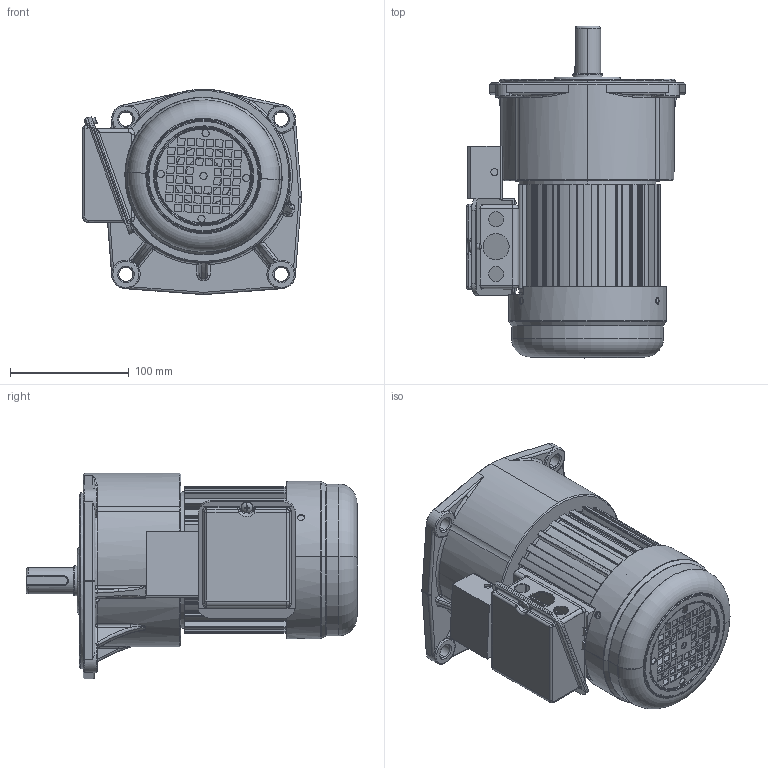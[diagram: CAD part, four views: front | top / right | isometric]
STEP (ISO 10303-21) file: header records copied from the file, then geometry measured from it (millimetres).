
FILE_DESCRIPTION (( 'STEP AP203' ), '1' );
FILE_NAME ('等眈200W饜2#蕾宒.STEP', '2020-04-23T02:30:09', ( 'china' ), ( 'china' ), 'SwSTEP 2.0', 'SolidWorks 2019', '' );
FILE_SCHEMA (( 'CONFIG_CONTROL_DESIGN' ));
Length unit declared in the file: millimetre
Products named in the file (5): 等眈100W2#蕾宒; 100W棠憤迖殤; 100W价陬瑞欶; 淕霜ん; 等眈200W饜2#蕾宒
Assembly tree (4 placements, depth 2):
  等眈200W饜2#蕾宒
    等眈100W2#蕾宒
    100W棠憤迖殤
    100W价陬瑞欶
    淕霜ん
Bounding box: 184.38 x 279.57 x 172.99 mm (x, y, z)
Volume: 564946.9 mm3; surface area: 365045.2 mm2
Topology: 7 solids, 8 shells, 1105 faces, 2986 edges, 1901 vertices
Faces by surface type: plane 435, cylinder 428, bspline 151, torus 56, cone 29, sphere 6
Full cylindrical faces by diameter (mm): 4 x1
Entity records: 45627 total; most frequent: CARTESIAN_POINT 17685, ORIENTED_EDGE 5922, DIRECTION 5535, EDGE_CURVE 2961, AXIS2_PLACEMENT_3D 1993, VERTEX_POINT 1901, LINE 1549, VECTOR 1549
